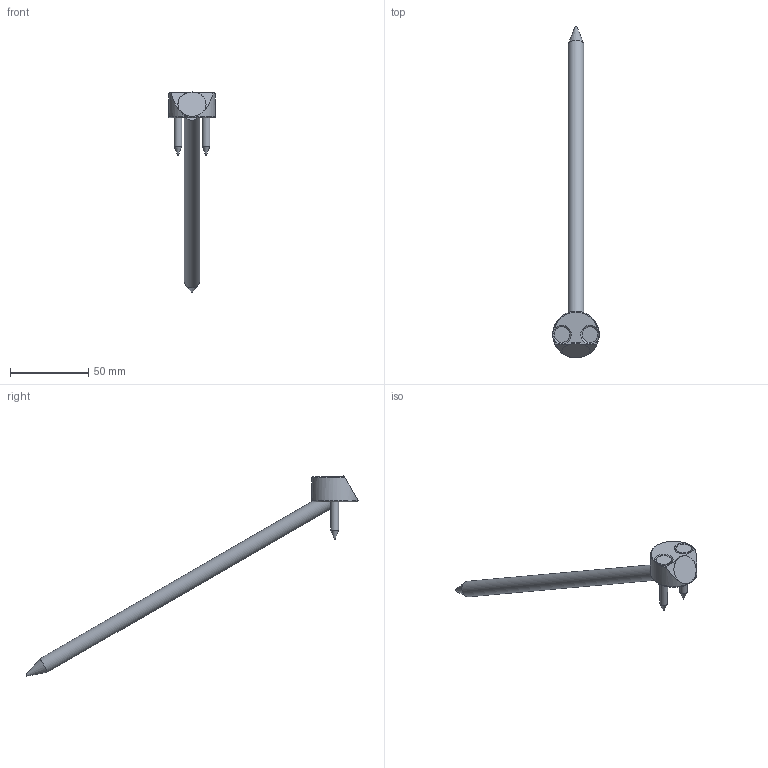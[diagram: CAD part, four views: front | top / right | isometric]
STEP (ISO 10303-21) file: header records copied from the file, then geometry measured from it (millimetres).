
FILE_DESCRIPTION(/* description */ ('Unknown'),/* implementation_level */ '2;1');
FILE_NAME(/* name */ 'T-JOINT_D30_W30_2xSK 5x40_1xSK 10x240',/* time_stamp */ '2022-02-03T08:29:26+01:00',/* author */ ('Unknown'),/* organization */ ('Unknown'),/* preprocessor_version */ 'ST-DEVELOPER v16.7',/* originating_system */ 'Solid Edge',/* authorisation */ 'Unknown');
FILE_SCHEMA (('AUTOMOTIVE_DESIGN {1 0 10303 214 3 1 1}'));
Length unit declared in the file: millimetre
Products named in the file (4): T-Joint_D30_W30_2xSK5x40_1xSK10x240; T-Joint_D30_W30; SK Schraube 5x40_ohne_Gewinde; SK Schraube 10x240_ohne_Gewinde_22042020
Assembly tree (4 placements, depth 2):
  T-Joint_D30_W30_2xSK5x40_1xSK10x240
    T-Joint_D30_W30
    SK Schraube 5x40_ohne_Gewinde  x2
    SK Schraube 10x240_ohne_Gewinde_22042020
Bounding box: 29.78 x 212.73 x 128.22 mm (x, y, z)
Volume: 27155.8 mm3; surface area: 12630.7 mm2
Topology: 4 solids, 4 shells, 35 faces, 75 edges, 46 vertices
Faces by surface type: cylinder 12, plane 11, cone 9, torus 3
Full cylindrical faces by diameter (mm): 5 x2, 6.2 x2, 6.3 x1, 10 x4, 10.5 x1, 18 x1
Entity records: 812 total; most frequent: CARTESIAN_POINT 145, DIRECTION 134, ORIENTED_EDGE 82, AXIS2_PLACEMENT_3D 66, EDGE_LOOP 51, FACE_BOUND 51, EDGE_CURVE 41, VERTEX_POINT 34
